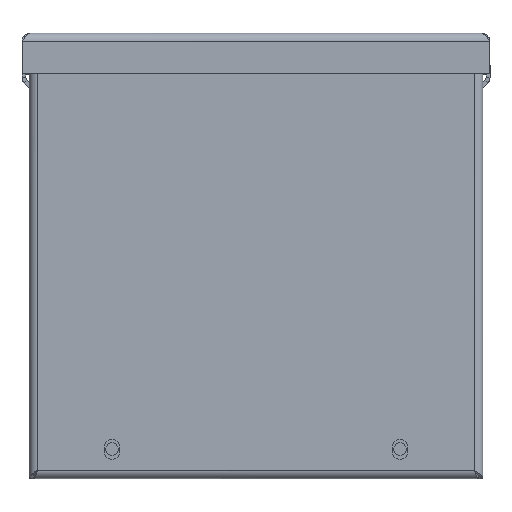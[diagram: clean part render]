
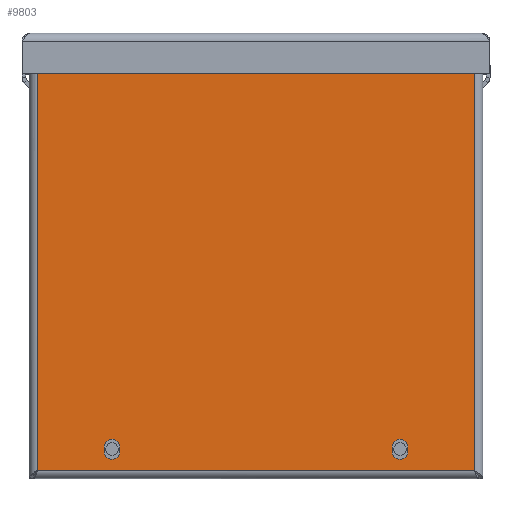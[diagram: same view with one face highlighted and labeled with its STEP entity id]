
A CAD part, top view. The second image highlights one B-rep face of the part: STEP entity #9803.
In plain terms, the highlighted planar face has unit normal (0, 0, 1).
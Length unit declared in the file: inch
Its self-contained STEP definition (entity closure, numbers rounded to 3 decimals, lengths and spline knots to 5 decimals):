
#402 = DIRECTION ( 'NONE',  ( 0., 0., -1. ) ) ;
#487 = CARTESIAN_POINT ( 'NONE',  ( -2.1095, -2.592, 0.055 ) ) ;
#594 = EDGE_CURVE ( 'NONE', #6053, #1028, #2673, .T. ) ;
#666 = VECTOR ( 'NONE', #8394, 39.37008 ) ;
#776 = VECTOR ( 'NONE', #8007, 39.37008 ) ;
#861 = DIRECTION ( 'NONE',  ( 0., 1., 0. ) ) ;
#1002 = EDGE_CURVE ( 'NONE', #1028, #6882, #9210, .T. ) ;
#1028 = VERTEX_POINT ( 'NONE', #487 ) ;
#1139 = LINE ( 'NONE', #10969, #1909 ) ;
#1144 = DIRECTION ( 'NONE',  ( 0., 0., -1. ) ) ;
#1200 = VERTEX_POINT ( 'NONE', #6623 ) ;
#1305 = CARTESIAN_POINT ( 'NONE',  ( 2.1095, -2.592, 0.055 ) ) ;
#1376 = CARTESIAN_POINT ( 'NONE',  ( -2., -2.592, 0.055 ) ) ;
#1524 = EDGE_CURVE ( 'NONE', #8411, #6053, #2646, .T. ) ;
#1729 = ORIENTED_EDGE ( 'NONE', *, *, #4945, .T. ) ;
#1774 = EDGE_CURVE ( 'NONE', #9956, #1200, #8427, .T. ) ;
#1909 = VECTOR ( 'NONE', #10039, 39.37008 ) ;
#1921 = VECTOR ( 'NONE', #9171, 39.37008 ) ;
#1983 = AXIS2_PLACEMENT_3D ( 'NONE', #6144, #7253, #3240 ) ;
#2107 = CARTESIAN_POINT ( 'NONE',  ( -1.8905, -2.654, 0.055 ) ) ;
#2157 = CARTESIAN_POINT ( 'NONE',  ( -3.09146, -2.915, 0.055 ) ) ;
#2222 = ORIENTED_EDGE ( 'NONE', *, *, #594, .T. ) ;
#2549 = FACE_OUTER_BOUND ( 'NONE', #11364, .T. ) ;
#2646 = CIRCLE ( 'NONE', #7724, 0.1095 ) ;
#2647 = ORIENTED_EDGE ( 'NONE', *, *, #12304, .T. ) ;
#2673 = LINE ( 'NONE', #11545, #4958 ) ;
#2735 = CARTESIAN_POINT ( 'NONE',  ( -2.1095, -2.654, 0.055 ) ) ;
#2893 = VERTEX_POINT ( 'NONE', #12500 ) ;
#3010 = CARTESIAN_POINT ( 'NONE',  ( 3.035, -2.97146, 0.055 ) ) ;
#3111 = VECTOR ( 'NONE', #6167, 39.37008 ) ;
#3240 = DIRECTION ( 'NONE',  ( -1., 0., 0. ) ) ;
#3481 = CARTESIAN_POINT ( 'NONE',  ( 1.8905, -2.654, 0.055 ) ) ;
#3781 = ORIENTED_EDGE ( 'NONE', *, *, #6327, .T. ) ;
#4022 = CARTESIAN_POINT ( 'NONE',  ( -1.8905, -2.592, 0.055 ) ) ;
#4116 = LINE ( 'NONE', #2157, #776 ) ;
#4174 = EDGE_CURVE ( 'NONE', #4918, #6090, #1139, .T. ) ;
#4200 = CARTESIAN_POINT ( 'NONE',  ( 3.15, 3.03, 0.055 ) ) ;
#4335 = CARTESIAN_POINT ( 'NONE',  ( -3.035, 3.03, 0.055 ) ) ;
#4431 = AXIS2_PLACEMENT_3D ( 'NONE', #4200, #1144, #11032 ) ;
#4493 = CARTESIAN_POINT ( 'NONE',  ( -1.8905, -2.592, 0.055 ) ) ;
#4639 = EDGE_LOOP ( 'NONE', ( #9896, #3781, #8187, #10296 ) ) ;
#4743 = VECTOR ( 'NONE', #8849, 39.37008 ) ;
#4842 = VERTEX_POINT ( 'NONE', #7786 ) ;
#4918 = VERTEX_POINT ( 'NONE', #1305 ) ;
#4945 = EDGE_CURVE ( 'NONE', #2893, #6353, #6010, .T. ) ;
#4958 = VECTOR ( 'NONE', #861, 39.37008 ) ;
#5026 = DIRECTION ( 'NONE',  ( 0., 0., -1. ) ) ;
#5187 = EDGE_CURVE ( 'NONE', #6353, #4842, #9501, .T. ) ;
#5541 = CARTESIAN_POINT ( 'NONE',  ( 3.035, -2.915, 0.055 ) ) ;
#5905 = FACE_BOUND ( 'NONE', #4639, .T. ) ;
#5932 = CARTESIAN_POINT ( 'NONE',  ( 2., -2.654, 0.055 ) ) ;
#6010 = LINE ( 'NONE', #9883, #3111 ) ;
#6053 = VERTEX_POINT ( 'NONE', #2735 ) ;
#6090 = VERTEX_POINT ( 'NONE', #9596 ) ;
#6144 = CARTESIAN_POINT ( 'NONE',  ( 2., -2.592, 0.055 ) ) ;
#6146 = CIRCLE ( 'NONE', #10325, 0.1095 ) ;
#6167 = DIRECTION ( 'NONE',  ( -1., 0., 0. ) ) ;
#6249 = EDGE_CURVE ( 'NONE', #6090, #9956, #6146, .T. ) ;
#6327 = EDGE_CURVE ( 'NONE', #1200, #4918, #6457, .T. ) ;
#6353 = VERTEX_POINT ( 'NONE', #9072 ) ;
#6457 = CIRCLE ( 'NONE', #1983, 0.1095 ) ;
#6623 = CARTESIAN_POINT ( 'NONE',  ( 1.8905, -2.592, 0.055 ) ) ;
#6665 = AXIS2_PLACEMENT_3D ( 'NONE', #1376, #402, #12024 ) ;
#6882 = VERTEX_POINT ( 'NONE', #4022 ) ;
#7118 = PLANE ( 'NONE',  #4431 ) ;
#7202 = CARTESIAN_POINT ( 'NONE',  ( 1.8905, -2.592, 0.055 ) ) ;
#7253 = DIRECTION ( 'NONE',  ( 0., 0., -1. ) ) ;
#7686 = VECTOR ( 'NONE', #11153, 39.37008 ) ;
#7724 = AXIS2_PLACEMENT_3D ( 'NONE', #11962, #5026, #10873 ) ;
#7786 = CARTESIAN_POINT ( 'NONE',  ( -3.035, -2.915, 0.055 ) ) ;
#7801 = EDGE_CURVE ( 'NONE', #4842, #11344, #4116, .T. ) ;
#7985 = DIRECTION ( 'NONE',  ( 0., 0., -1. ) ) ;
#8007 = DIRECTION ( 'NONE',  ( 1., 0., 0. ) ) ;
#8187 = ORIENTED_EDGE ( 'NONE', *, *, #4174, .T. ) ;
#8190 = ORIENTED_EDGE ( 'NONE', *, *, #7801, .T. ) ;
#8394 = DIRECTION ( 'NONE',  ( 0., -1., 0. ) ) ;
#8411 = VERTEX_POINT ( 'NONE', #2107 ) ;
#8427 = LINE ( 'NONE', #7202, #7686 ) ;
#8849 = DIRECTION ( 'NONE',  ( 0., 1., 0. ) ) ;
#9072 = CARTESIAN_POINT ( 'NONE',  ( -3.035, 3.03, 0.055 ) ) ;
#9171 = DIRECTION ( 'NONE',  ( 0., -1., 0. ) ) ;
#9210 = CIRCLE ( 'NONE', #6665, 0.1095 ) ;
#9257 = ORIENTED_EDGE ( 'NONE', *, *, #1002, .T. ) ;
#9501 = LINE ( 'NONE', #4335, #666 ) ;
#9596 = CARTESIAN_POINT ( 'NONE',  ( 2.1095, -2.654, 0.055 ) ) ;
#9803 = ADVANCED_FACE ( 'NONE', ( #10490, #5905, #2549 ), #7118, .F. ) ;
#9883 = CARTESIAN_POINT ( 'NONE',  ( -3.15, 3.03, 0.055 ) ) ;
#9896 = ORIENTED_EDGE ( 'NONE', *, *, #1774, .T. ) ;
#9956 = VERTEX_POINT ( 'NONE', #3481 ) ;
#10039 = DIRECTION ( 'NONE',  ( 0., -1., 0. ) ) ;
#10248 = LINE ( 'NONE', #3010, #4743 ) ;
#10296 = ORIENTED_EDGE ( 'NONE', *, *, #6249, .T. ) ;
#10325 = AXIS2_PLACEMENT_3D ( 'NONE', #5932, #7985, #11756 ) ;
#10490 = FACE_BOUND ( 'NONE', #12615, .T. ) ;
#10499 = EDGE_CURVE ( 'NONE', #6882, #8411, #11225, .T. ) ;
#10873 = DIRECTION ( 'NONE',  ( -1., 0., 0. ) ) ;
#10969 = CARTESIAN_POINT ( 'NONE',  ( 2.1095, -2.592, 0.055 ) ) ;
#11032 = DIRECTION ( 'NONE',  ( -1., 0., 0. ) ) ;
#11097 = ORIENTED_EDGE ( 'NONE', *, *, #10499, .T. ) ;
#11153 = DIRECTION ( 'NONE',  ( 0., 1., 0. ) ) ;
#11225 = LINE ( 'NONE', #4493, #1921 ) ;
#11344 = VERTEX_POINT ( 'NONE', #5541 ) ;
#11364 = EDGE_LOOP ( 'NONE', ( #8190, #2647, #1729, #12165 ) ) ;
#11545 = CARTESIAN_POINT ( 'NONE',  ( -2.1095, -2.592, 0.055 ) ) ;
#11756 = DIRECTION ( 'NONE',  ( -1., 0., 0. ) ) ;
#11862 = ORIENTED_EDGE ( 'NONE', *, *, #1524, .T. ) ;
#11962 = CARTESIAN_POINT ( 'NONE',  ( -2., -2.654, 0.055 ) ) ;
#12024 = DIRECTION ( 'NONE',  ( -1., 0., 0. ) ) ;
#12165 = ORIENTED_EDGE ( 'NONE', *, *, #5187, .T. ) ;
#12304 = EDGE_CURVE ( 'NONE', #11344, #2893, #10248, .T. ) ;
#12500 = CARTESIAN_POINT ( 'NONE',  ( 3.035, 3.03, 0.055 ) ) ;
#12615 = EDGE_LOOP ( 'NONE', ( #2222, #9257, #11097, #11862 ) ) ;
